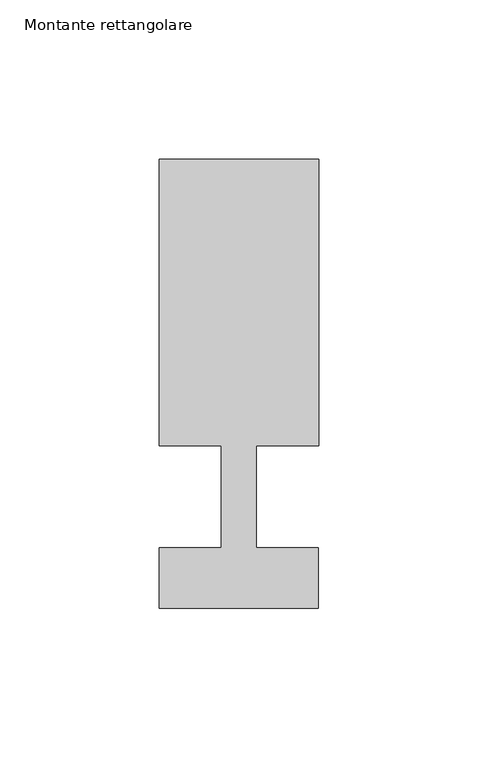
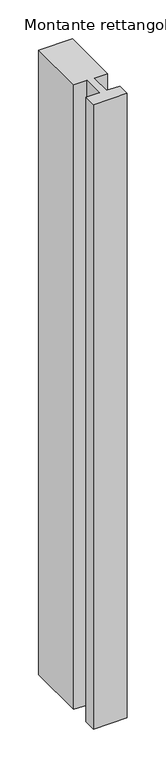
"""IFC4 building model written with IfcOpenShell, lengths in millimetres: member geometry, Montante rettangolare : Aluk_SL50_Traverso K742_vetro 32."""

from ifc_helpers import new_model, si_unit, frame, origin, place, context, project, spatial, polyline, outline, extrude, source, transform, mapped, element, save


def montante_rettangolare_dd0312de(model_context):
    return source(origin(), model_context, "Body", "SweptSolid", [
        extrude(outline(polyline([(25.0, 106.0), (25.0, 16.0001243), (5.5, 16.0001243), (5.5, -15.9998757), (24.9874218, -15.9998757), (24.9874218, -35.0022918), (-25.026691, -35.0022918), (-25.026691, -15.9998757), (-5.5, -15.9998757), (-5.5, 16.0001243), (-25.0, 16.0001243), (-25.0, 106.0), (25.0, 106.0)])), frame((0.0, 0.0, -980.0992581), z_axis=(0.0, 0.0, 1.0), x_axis=(1.0, 0.0, 0.0)), (0.0, 0.0, 1.0), 980.0992581),
    ])


if __name__ == "__main__":
    model = new_model("IFC4")
    model_context = context("Model", 3, world=origin())
    ifc_project = project(units=[si_unit("LENGTHUNIT", "METRE", prefix="MILLI")], contexts=[model_context])
    site = spatial("IfcSite", under=ifc_project)
    building = spatial("IfcBuilding", under=site)
    placement = place(None, origin())
    montante_rettangolare_shape = montante_rettangolare_dd0312de(model_context)
    element("IfcMember", 1, ObjectType="Montante rettangolare : Aluk_SL50_Traverso K742_vetro 32", at=placement, inside=building, context=model_context, shape_type="MappedRepresentation", body=[
        mapped(montante_rettangolare_shape, transform((0.0, 0.0, 0.0), x_axis=(1.0, 0.0, 0.0), y_axis=(0.0, 1.0, 0.0), z_axis=(0.0, 0.0, 1.0))),
    ])
    save(model, "model.ifc")
